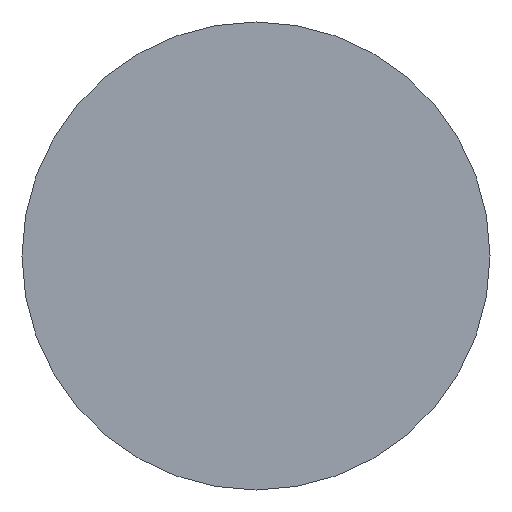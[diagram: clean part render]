
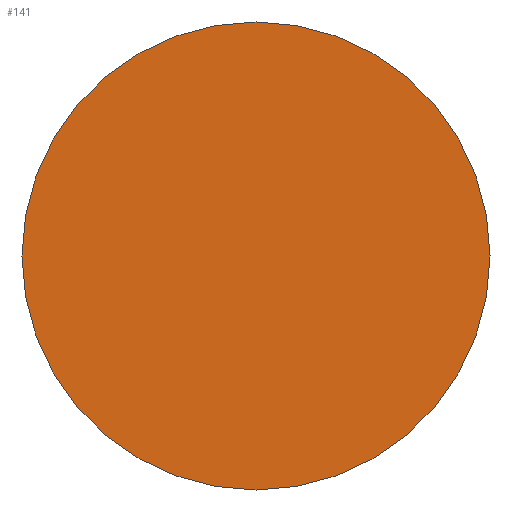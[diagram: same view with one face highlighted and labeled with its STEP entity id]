
A CAD part, left-side view. The second image highlights one B-rep face of the part: STEP entity #141.
In plain terms, the highlighted planar face has unit normal (-1, 0, 0).
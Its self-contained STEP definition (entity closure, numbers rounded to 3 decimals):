
#16 = CARTESIAN_POINT ( 'NONE',  ( 0., 0., 0. ) ) ;
#24 = DIRECTION ( 'NONE',  ( 0., -1., 0. ) ) ;
#29 = DIRECTION ( 'NONE',  ( -1., 0., 0. ) ) ;
#37 = CARTESIAN_POINT ( 'NONE',  ( 0., 0., 0. ) ) ;
#49 = EDGE_CURVE ( 'NONE', #251, #127, #163, .T. ) ;
#50 = PLANE ( 'NONE',  #164 ) ;
#71 = ORIENTED_EDGE ( 'NONE', *, *, #206, .F. ) ;
#88 = DIRECTION ( 'NONE',  ( 0., 1., 0. ) ) ;
#116 = ORIENTED_EDGE ( 'NONE', *, *, #49, .F. ) ;
#127 = VERTEX_POINT ( 'NONE', #156 ) ;
#141 = ADVANCED_FACE ( 'NONE', ( #236 ), #50, .T. ) ;
#156 = CARTESIAN_POINT ( 'NONE',  ( 0., -9., 0. ) ) ;
#163 = CIRCLE ( 'NONE', #238, 9. ) ;
#164 = AXIS2_PLACEMENT_3D ( 'NONE', #37, #29, #24 ) ;
#174 = CARTESIAN_POINT ( 'NONE',  ( 0., 9., 0. ) ) ;
#192 = DIRECTION ( 'NONE',  ( 1., 0., 0. ) ) ;
#195 = AXIS2_PLACEMENT_3D ( 'NONE', #268, #229, #88 ) ;
#206 = EDGE_CURVE ( 'NONE', #127, #251, #221, .T. ) ;
#221 = CIRCLE ( 'NONE', #195, 9. ) ;
#229 = DIRECTION ( 'NONE',  ( 1., 0., 0. ) ) ;
#231 = EDGE_LOOP ( 'NONE', ( #116, #71 ) ) ;
#236 = FACE_OUTER_BOUND ( 'NONE', #231, .T. ) ;
#238 = AXIS2_PLACEMENT_3D ( 'NONE', #16, #192, #242 ) ;
#242 = DIRECTION ( 'NONE',  ( 0., 1., 0. ) ) ;
#251 = VERTEX_POINT ( 'NONE', #174 ) ;
#268 = CARTESIAN_POINT ( 'NONE',  ( 0., 0., 0. ) ) ;
